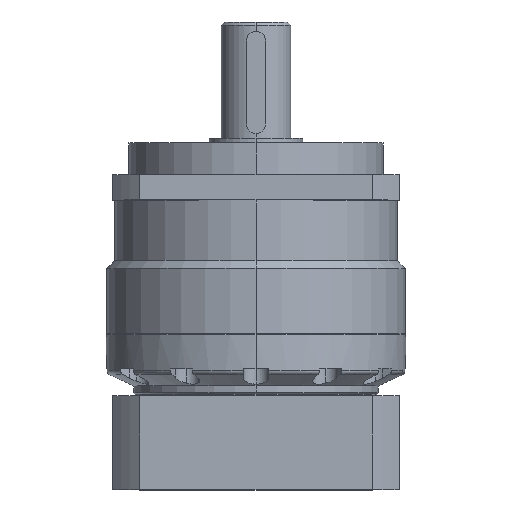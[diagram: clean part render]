
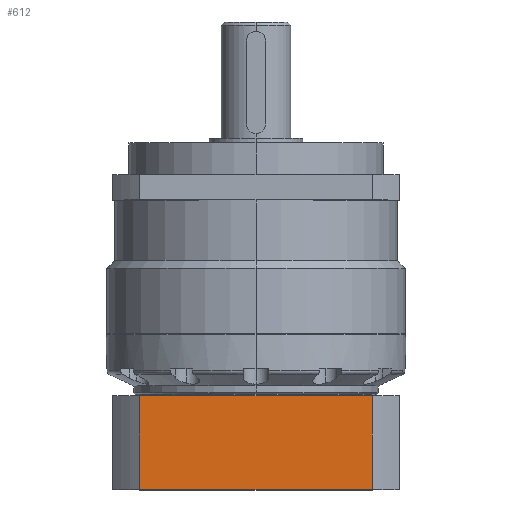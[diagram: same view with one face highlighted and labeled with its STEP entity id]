
A CAD part, top view. The second image highlights one B-rep face of the part: STEP entity #612.
In plain terms, the highlighted planar face has unit normal (0, 0, 1) as drawn and (0, 0, -1) by its records, which use the part's own axes.
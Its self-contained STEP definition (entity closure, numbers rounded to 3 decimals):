
#323=PLANE('',#7429);
#612=ADVANCED_FACE('',(#1223),#323,.F.);
#1223=FACE_OUTER_BOUND('',#1609,.T.);
#1609=EDGE_LOOP('',(#3311,#3312,#3313,#3314));
#2046=LINE('',#10478,#2501);
#2186=LINE('',#11105,#2641);
#2187=LINE('',#11107,#2642);
#2188=LINE('',#11109,#2643);
#2501=VECTOR('',#8174,1.);
#2641=VECTOR('',#8688,1.);
#2642=VECTOR('',#8691,1.);
#2643=VECTOR('',#8692,1.);
#3311=ORIENTED_EDGE('',*,*,#5974,.F.);
#3312=ORIENTED_EDGE('',*,*,#5973,.T.);
#3313=ORIENTED_EDGE('',*,*,#5702,.T.);
#3314=ORIENTED_EDGE('',*,*,#5975,.F.);
#5036=VERTEX_POINT('',#10477);
#5037=VERTEX_POINT('',#10479);
#5242=VERTEX_POINT('',#11104);
#5243=VERTEX_POINT('',#11108);
#5702=EDGE_CURVE('',#5037,#5036,#2046,.T.);
#5973=EDGE_CURVE('',#5242,#5037,#2186,.T.);
#5974=EDGE_CURVE('',#5242,#5243,#2187,.T.);
#5975=EDGE_CURVE('',#5243,#5036,#2188,.T.);
#7429=AXIS2_PLACEMENT_3D('',#11110,#8693,#8694);
#8174=DIRECTION('',(-1.,0.,0.));
#8688=DIRECTION('',(0.,-1.,0.));
#8691=DIRECTION('',(-1.,0.,0.));
#8692=DIRECTION('',(0.,-1.,0.));
#8693=DIRECTION('',(0.,0.,1.));
#8694=DIRECTION('',(1.,0.,0.));
#10477=CARTESIAN_POINT('',(-36.592,-1.5,-45.));
#10478=CARTESIAN_POINT('',(0.,-1.5,-45.));
#10479=CARTESIAN_POINT('',(36.592,-1.5,-45.));
#11104=CARTESIAN_POINT('',(36.592,28.,-45.));
#11105=CARTESIAN_POINT('',(36.592,30.,-45.));
#11107=CARTESIAN_POINT('',(0.,28.,-45.));
#11108=CARTESIAN_POINT('',(-36.592,28.,-45.));
#11109=CARTESIAN_POINT('',(-36.592,30.,-45.));
#11110=CARTESIAN_POINT('',(0.,30.,-45.));
